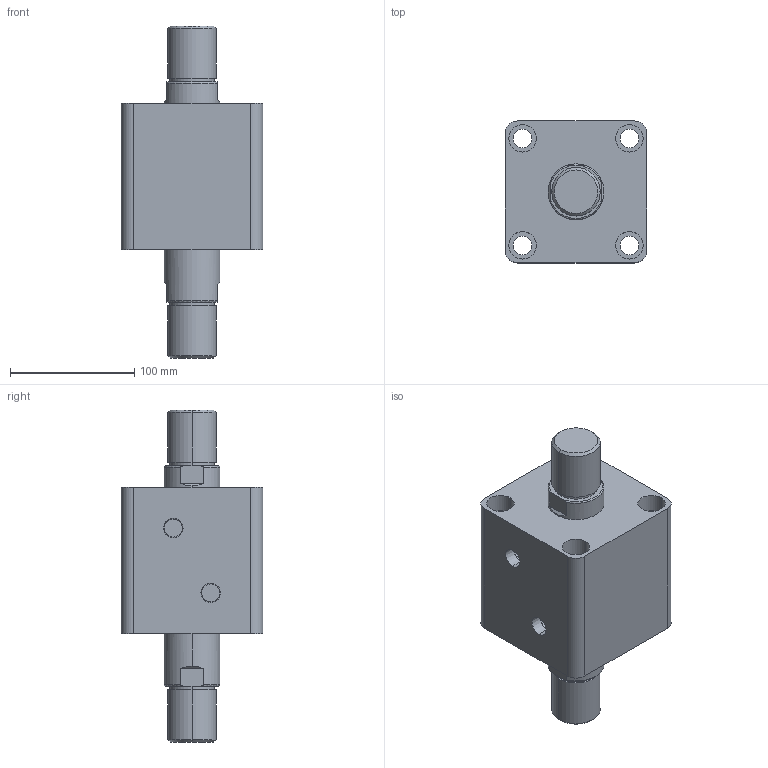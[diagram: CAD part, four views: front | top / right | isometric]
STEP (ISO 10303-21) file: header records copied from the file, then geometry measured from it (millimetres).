
FILE_DESCRIPTION (( 'STEP AP203' ), '1' );
FILE_NAME ('HTB-SW80-25W.STEP', '2019-10-07T10:21:03', ( '微软用户' ), ( '微软中国' ), 'SwSTEP 2.0', 'SolidWorks 2012', '' );
FILE_SCHEMA (( 'CONFIG_CONTROL_DESIGN' ));
Length unit declared in the file: millimetre
Products named in the file (3): HTB-SW80-25W; HTB-SW80-25W活塞杆; HTB-SW80-25掛极
Assembly tree (2 placements, depth 2):
  HTB-SW80-25W
    HTB-SW80-25掛极
    HTB-SW80-25W活塞杆
Bounding box: 114 x 114 x 267 mm (x, y, z)
Volume: 1523815.5 mm3; surface area: 178405.9 mm2
Topology: 2 solids, 2 shells, 108 faces, 240 edges, 156 vertices
Faces by surface type: cylinder 52, plane 36, torus 12, cone 8
Entity records: 3449 total; most frequent: CARTESIAN_POINT 629, DIRECTION 586, ORIENTED_EDGE 480, AXIS2_PLACEMENT_3D 249, EDGE_CURVE 240, VERTEX_POINT 156, EDGE_LOOP 138, CIRCLE 136
